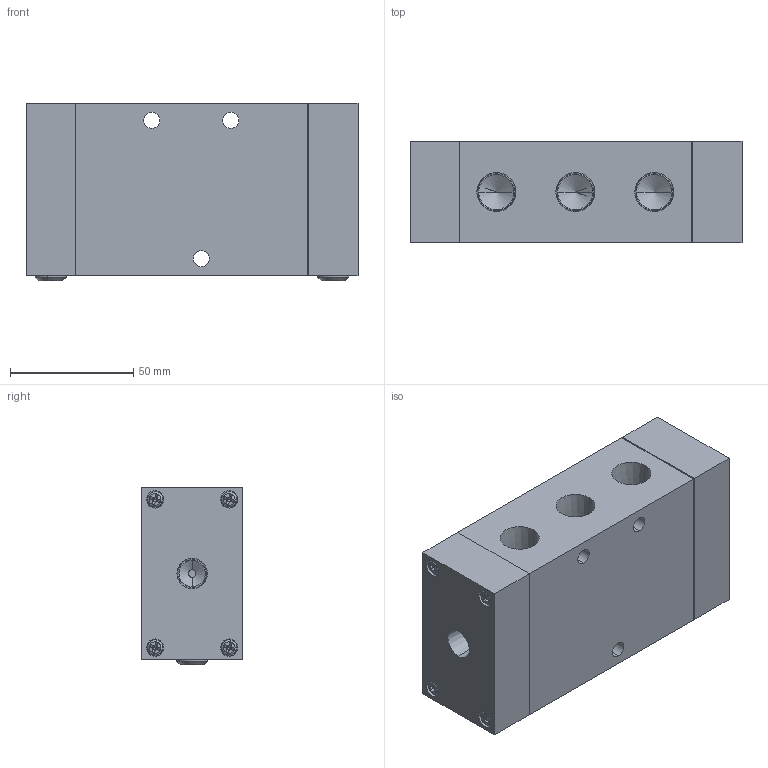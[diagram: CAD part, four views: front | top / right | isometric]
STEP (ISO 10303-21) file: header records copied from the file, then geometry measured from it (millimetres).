
FILE_DESCRIPTION (( 'STEP AP203' ), '1' );
FILE_NAME ('VP2410-03.STEP', '2016-01-13T18:41:20', ( '' ), ( '' ), 'SwSTEP 2.0', 'SolidWorks 2014', '' );
FILE_SCHEMA (( 'CONFIG_CONTROL_DESIGN' ));
Length unit declared in the file: millimetre
Products named in the file (7): VS2410-1=03; VS2410-3; VS2410-2; M4; VP2410-03; VS2410-MARK; 止付1-4
Assembly tree (15 placements, depth 2):
  VP2410-03
    VS2410-2
    VS2410-3  x2
    VS2410-MARK
    M4  x8
    止付1-4  x2
    VS2410-1=03
Bounding box: 134.5 x 41.15 x 72 mm (x, y, z)
Volume: 358262.2 mm3; surface area: 66811.5 mm2
Topology: 24 solids, 24 shells, 736 faces, 1818 edges, 1145 vertices
Faces by surface type: plane 401, cone 120, cylinder 97, bspline 66, torus 32, sphere 20
Entity records: 16977 total; most frequent: CARTESIAN_POINT 5916, ORIENTED_EDGE 2136, DIRECTION 1906, EDGE_CURVE 1068, VECTOR 726, LINE 726, VERTEX_POINT 704, AXIS2_PLACEMENT_3D 590
